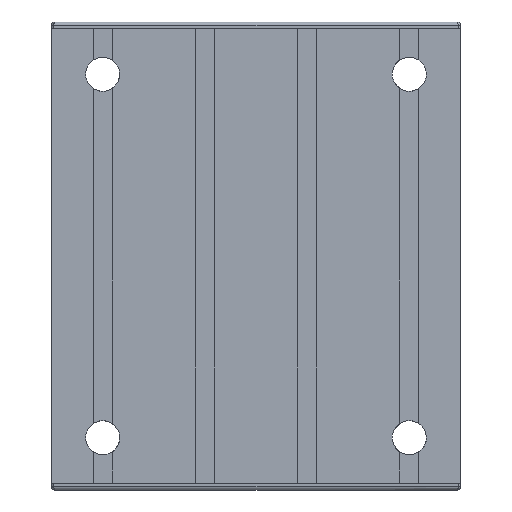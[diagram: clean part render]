
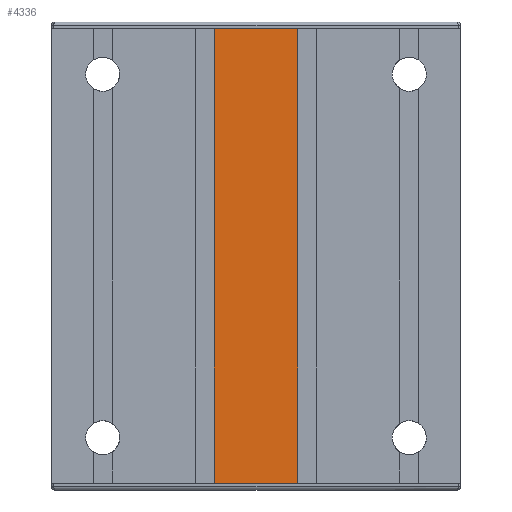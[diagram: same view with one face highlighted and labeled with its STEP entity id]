
A CAD part, top view. The second image highlights one B-rep face of the part: STEP entity #4336.
In plain terms, the highlighted planar face has unit normal (0, 0, 1) as drawn and (0, 1, 0) by its records, which use the part's own axes.
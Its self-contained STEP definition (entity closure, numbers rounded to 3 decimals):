
#3324=CARTESIAN_POINT('',(-18.4,22.5,-100.0));
#3325=VERTEX_POINT('',#3324);
#3332=CARTESIAN_POINT('',(18.4,22.5,-100.0));
#3333=VERTEX_POINT('',#3332);
#3334=CARTESIAN_POINT('',(18.4,22.5,-100.0));
#3335=DIRECTION('',(-1.0,0.0,0.0));
#3336=VECTOR('',#3335,36.8);
#3337=LINE('',#3334,#3336);
#3338=EDGE_CURVE('',#3333,#3325,#3337,.T.);
#4294=CARTESIAN_POINT('',(-18.4,22.5,100.0));
#4295=VERTEX_POINT('',#4294);
#4302=CARTESIAN_POINT('',(-18.4,22.5,100.0));
#4303=DIRECTION('',(0.0,0.0,-1.0));
#4304=VECTOR('',#4303,200.0);
#4305=LINE('',#4302,#4304);
#4306=EDGE_CURVE('',#4295,#3325,#4305,.T.);
#4313=CARTESIAN_POINT('',(-18.1,22.5,0.0));
#4314=DIRECTION('',(0.0,1.0,0.0));
#4315=DIRECTION('',(0.0,0.0,1.0));
#4316=AXIS2_PLACEMENT_3D('',#4313,#4314,#4315);
#4317=PLANE('',#4316);
#4318=CARTESIAN_POINT('',(18.4,22.5,100.0));
#4319=VERTEX_POINT('',#4318);
#4320=CARTESIAN_POINT('',(-18.4,22.5,100.0));
#4321=DIRECTION('',(1.0,0.0,0.0));
#4322=VECTOR('',#4321,36.8);
#4323=LINE('',#4320,#4322);
#4324=EDGE_CURVE('',#4295,#4319,#4323,.T.);
#4325=ORIENTED_EDGE('',*,*,#4324,.T.);
#4326=CARTESIAN_POINT('',(18.4,22.5,100.0));
#4327=DIRECTION('',(0.0,0.0,-1.0));
#4328=VECTOR('',#4327,200.0);
#4329=LINE('',#4326,#4328);
#4330=EDGE_CURVE('',#4319,#3333,#4329,.T.);
#4331=ORIENTED_EDGE('',*,*,#4330,.T.);
#4332=ORIENTED_EDGE('',*,*,#3338,.T.);
#4333=ORIENTED_EDGE('',*,*,#4306,.F.);
#4334=EDGE_LOOP('',(#4325,#4331,#4332,#4333));
#4335=FACE_OUTER_BOUND('',#4334,.T.);
#4336=ADVANCED_FACE('',(#4335),#4317,.T.);
